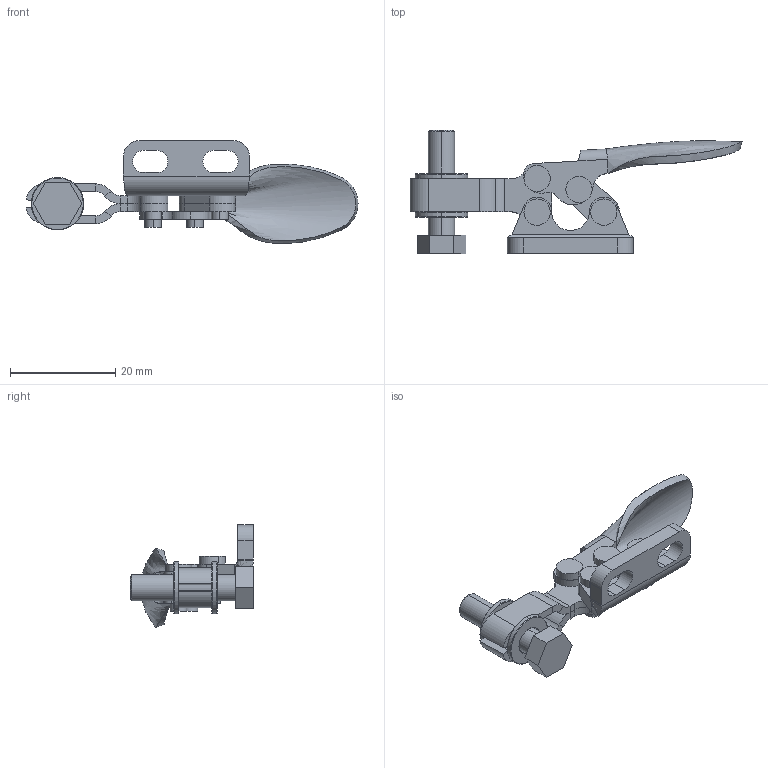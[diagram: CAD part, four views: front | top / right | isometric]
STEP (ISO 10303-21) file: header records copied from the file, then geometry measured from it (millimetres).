
FILE_DESCRIPTION (( 'STEP AP203' ), '1' );
FILE_NAME ('KF-105 DU.STEP', '2014-08-15T17:05:28', ( 'Ricardo' ), ( '' ), 'SwSTEP 2.0', 'SolidWorks 2013', '' );
FILE_SCHEMA (( 'CONFIG_CONTROL_DESIGN' ));
Length unit declared in the file: millimetre
Products named in the file (8): 01.10002_Montagem; 02.12145_Montagem; 03.13002_Montagem; 08.10002_Montagem; 12.50035; 17.50007; 06.50048; KF-105 DU
Assembly tree (13 placements, depth 2):
  KF-105 DU
    02.12145_Montagem
    01.10002_Montagem
    03.13002_Montagem  x2
    08.10002_Montagem  x2
    12.50035
    17.50007  x2
    06.50048  x4
Bounding box: 63.23 x 23.5 x 19.57 mm (x, y, z)
Volume: 3354.4 mm3; surface area: 5019.2 mm2
Topology: 13 solids, 13 shells, 229 faces, 562 edges, 364 vertices
Faces by surface type: cylinder 111, plane 89, cone 18, bspline 11
Entity records: 8115 total; most frequent: CARTESIAN_POINT 3248, ORIENTED_EDGE 812, DIRECTION 802, EDGE_CURVE 406, AXIS2_PLACEMENT_3D 311, VERTEX_POINT 268, EDGE_LOOP 182, VECTOR 180
